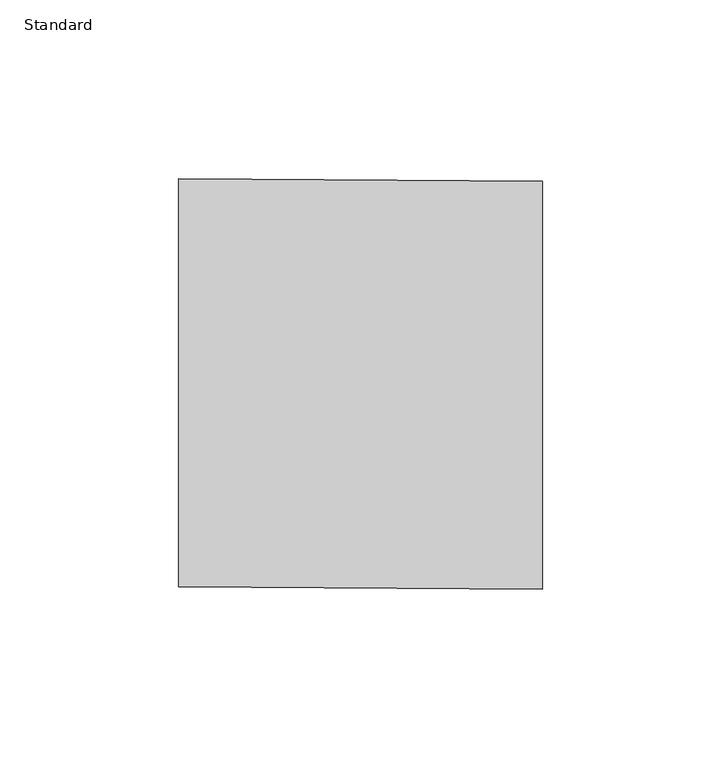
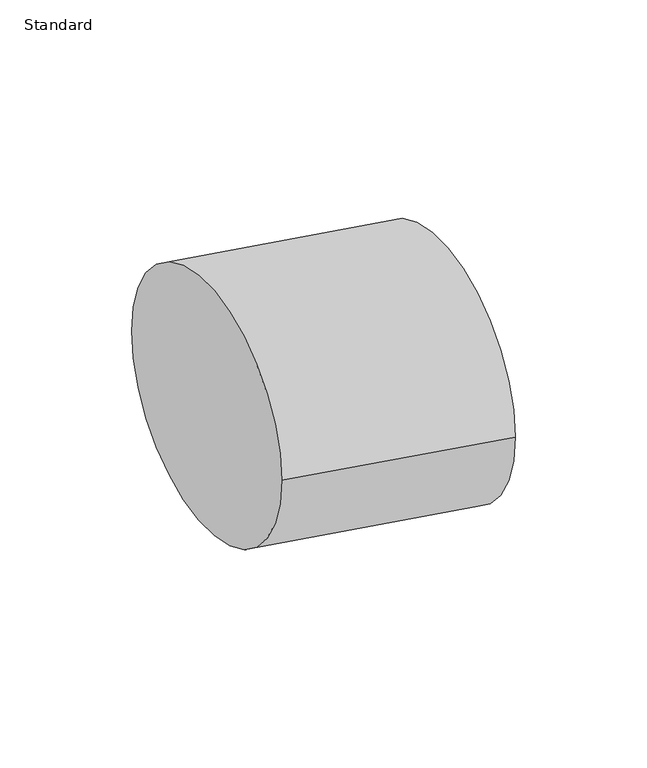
"""IFC4 building model written with IfcOpenShell, lengths in millimetres: pipe fitting geometry, Transformation - Générique : Standard."""

from ifc_helpers import new_model, si_unit, point, frame, origin, place, context, project, spatial, circle_curve, trimmed, source, transform, mapped, element, save
from ifc_brep_helpers import plane_surface, extruded_surface, advanced_brep


def standard_19720628(model_context):
    return source(origin(), model_context, "Body", "AdvancedBrep", [
        advanced_brep(
        [(102.0, -57.8716016, -15.223736), (102.0, 56.4283984, -15.223736), (0.0, -57.15, 0.0), (0.0, 57.15, 0.0)],
        [
            (0, 1, circle_curve(frame((102.0, -0.7216016, -15.223736), z_axis=(1.0, 0.0, 0.0), x_axis=(0.0, 1.0, 0.0)), 57.15)),
            (1, 0, circle_curve(frame((102.0, -0.7216016, -15.223736), z_axis=(1.0, 0.0, 0.0), x_axis=(0.0, 1.0, 0.0)), 57.15)),
            (2, 3, circle_curve(frame((0.0, 0.0, 0.0), z_axis=(-1.0, 0.0, 0.0), x_axis=(0.0, 1.0, 0.0)), 57.15)),
            (3, 2, circle_curve(frame((0.0, 0.0, 0.0), z_axis=(-1.0, 0.0, 0.0), x_axis=(0.0, 1.0, 0.0)), 57.15)),
            (3, 1),
            (0, 2),
        ],
        [
            plane_surface(frame((102.0, -0.7216016, -15.223736), z_axis=(1.0, 0.0, 0.0), x_axis=(0.0, 0.0, -1.0))),
            plane_surface(frame((0.0, 0.0, 0.0), z_axis=(-1.0, 0.0, 0.0), x_axis=(0.0, 0.0, -1.0))),
            extruded_surface(trimmed(circle_curve(frame((0.0, 0.0, 0.0), z_axis=(1.0, 0.0, 0.0), x_axis=(0.0, 1.0, 0.0)), 57.15), [point((0.0, -57.15, 0.0))], [point((0.0, 57.15, 0.0))], True, "CARTESIAN"), (102.0, -0.7216016, -15.223736), 103.13235596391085),
            extruded_surface(trimmed(circle_curve(frame((0.0, 0.0, 0.0), z_axis=(1.0, 0.0, 0.0), x_axis=(0.0, 1.0, 0.0)), 57.15), [point((0.0, 57.15, 0.0))], [point((0.0, -57.15, 0.0))], True, "CARTESIAN"), (102.0, -0.7216016, -15.223736), 103.13235596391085),
        ],
        [
            (0, [[1, 2]]),
            (1, [[3, 4]]),
            (2, [[-4, 5, -1, 6]]),
            (3, [[-3, -6, -2, -5]]),
        ],
    ),
    ])


if __name__ == "__main__":
    model = new_model("IFC4")
    model_context = context("Model", 3, world=origin())
    ifc_project = project(units=[si_unit("LENGTHUNIT", "METRE", prefix="MILLI")], contexts=[model_context])
    site = spatial("IfcSite", under=ifc_project)
    building = spatial("IfcBuilding", under=site)
    placement = place(None, origin())
    standard_shape = standard_19720628(model_context)
    element("IfcPipeFitting", 1, ObjectType="Transformation - Générique : Standard", at=placement, inside=building, context=model_context, shape_type="MappedRepresentation", body=[
        mapped(standard_shape, transform((0.0, 0.0, 0.0), x_axis=(1.0, 0.0, 0.0), y_axis=(0.0, 1.0, 0.0), z_axis=(0.0, 0.0, 1.0))),
    ])
    save(model, "model.ifc")
